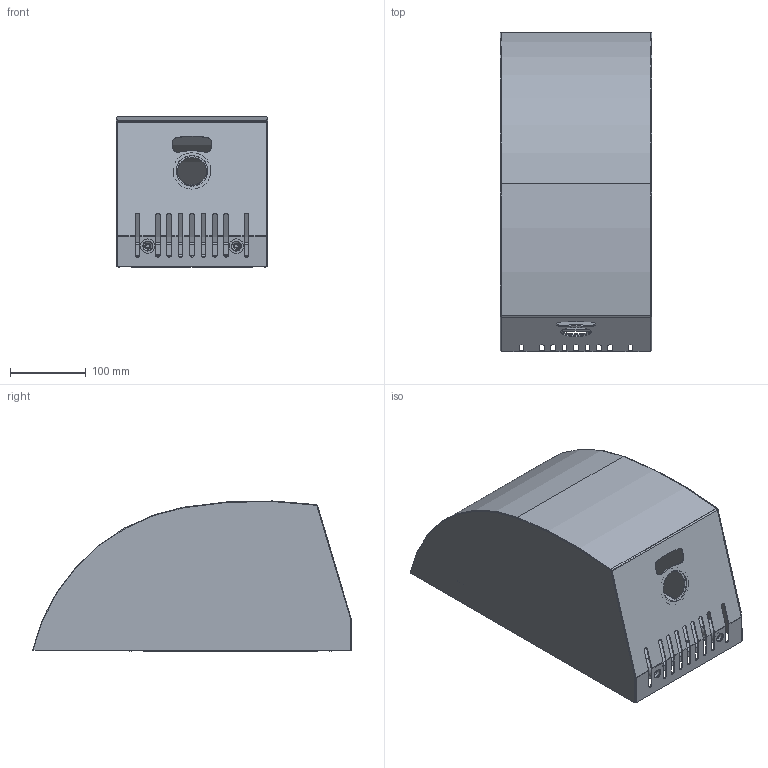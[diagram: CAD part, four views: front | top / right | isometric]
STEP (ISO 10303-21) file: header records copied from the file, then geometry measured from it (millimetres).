
FILE_DESCRIPTION((''),'2;1');
FILE_NAME('M:\Standardvarer\Håndtørrere\288 Dan Dryer - Turbo Design Rustfri\Tegninger\Public 3D files\288 Dan Dryer - Turbo Design Rustfri.stp','2010-05-05T15:22:21',('Dan Dryer'),(''),'Autodesk Inventor 2010','Autodesk Inventor 2010','');
FILE_SCHEMA(('AUTOMOTIVE_DESIGN { 1 0 10303 214 1 1 1 1 }'));
Length unit declared in the file: millimetre
Products named in the file (9): DD-270307-00 med stålbagplade 081007; DD-270307-01; DD-270307-10; DD-270307-11; DD-270307-13; DD-270307-14; DD-270307-16; Bagplade 081007 med plade - optegnet efter model; Bagplade 081007 - optegnet efter model
Assembly tree (10 placements, depth 3):
  DD-270307-00 med stålbagplade 081007
    DD-270307-01
      DD-270307-10
      DD-270307-11
      DD-270307-13  x2
      DD-270307-14
      DD-270307-16  x2
    Bagplade 081007 med plade - optegnet efter model
      Bagplade 081007 - optegnet efter model
Bounding box: 199.5 x 420 x 197.5 mm (x, y, z)
Volume: 526484.2 mm3; surface area: 667270.1 mm2
Topology: 8 solids, 8 shells, 373 faces, 1093 edges, 708 vertices
Faces by surface type: plane 218, cylinder 122, bspline 21, cone 12
Full cylindrical faces by diameter (mm): 20 x2
Entity records: 12334 total; most frequent: CARTESIAN_POINT 2412, ORIENTED_EDGE 2054, DIRECTION 2005, EDGE_CURVE 1027, VECTOR 743, LINE 743, VERTEX_POINT 682, AXIS2_PLACEMENT_3D 631
